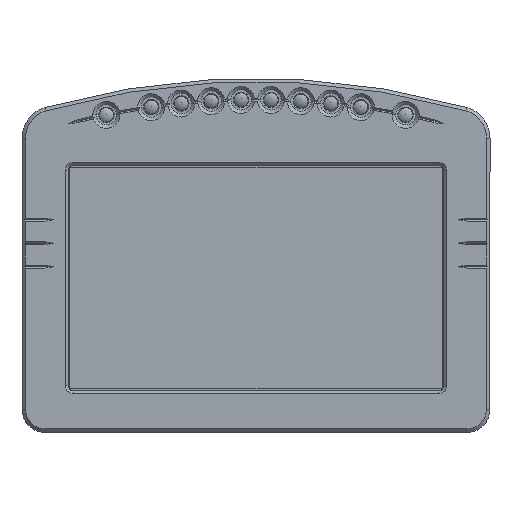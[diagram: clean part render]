
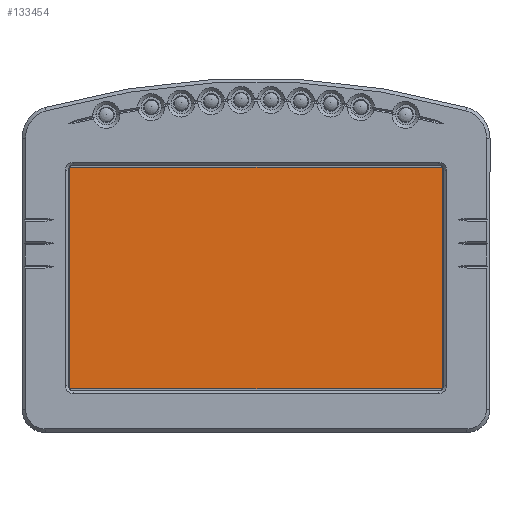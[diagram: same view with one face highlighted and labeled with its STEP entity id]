
A CAD part, top view. The second image highlights one B-rep face of the part: STEP entity #133454.
In plain terms, the highlighted planar face has unit normal (0, 0, 1).
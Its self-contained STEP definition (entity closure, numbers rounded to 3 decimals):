
#3131 = LINE ( 'NONE', #97867, #119452 ) ;
#4005 = CARTESIAN_POINT ( 'NONE',  ( 31.597, -53.169, 28.034 ) ) ;
#6768 = ORIENTED_EDGE ( 'NONE', *, *, #109237, .T. ) ;
#7555 = EDGE_CURVE ( 'NONE', #78285, #24822, #107643, .T. ) ;
#12771 = DIRECTION ( 'NONE',  ( 1., 0., 0. ) ) ;
#19156 = CARTESIAN_POINT ( 'NONE',  ( 31.597, -53.169, 28.034 ) ) ;
#24822 = VERTEX_POINT ( 'NONE', #31691 ) ;
#25016 = PLANE ( 'NONE',  #57813 ) ;
#31630 = ORIENTED_EDGE ( 'NONE', *, *, #7555, .T. ) ;
#31691 = CARTESIAN_POINT ( 'NONE',  ( -75.503, 10.581, 28.034 ) ) ;
#36545 = DIRECTION ( 'NONE',  ( 0., -1., 0. ) ) ;
#47585 = CARTESIAN_POINT ( 'NONE',  ( -75.503, -53.169, 28.034 ) ) ;
#48822 = VECTOR ( 'NONE', #36545, 1000. ) ;
#50032 = ORIENTED_EDGE ( 'NONE', *, *, #122938, .T. ) ;
#50677 = CARTESIAN_POINT ( 'NONE',  ( -75.503, -53.169, 28.034 ) ) ;
#52351 = LINE ( 'NONE', #19156, #131618 ) ;
#55792 = VERTEX_POINT ( 'NONE', #4005 ) ;
#57813 = AXIS2_PLACEMENT_3D ( 'NONE', #99691, #76913, #128716 ) ;
#61104 = ORIENTED_EDGE ( 'NONE', *, *, #67234, .T. ) ;
#67234 = EDGE_CURVE ( 'NONE', #24822, #125724, #79373, .T. ) ;
#76913 = DIRECTION ( 'NONE',  ( 0., 0., -1. ) ) ;
#78285 = VERTEX_POINT ( 'NONE', #78351 ) ;
#78351 = CARTESIAN_POINT ( 'NONE',  ( 31.597, 10.581, 28.034 ) ) ;
#79373 = LINE ( 'NONE', #47585, #48822 ) ;
#94552 = DIRECTION ( 'NONE',  ( 0., 1., 0. ) ) ;
#95159 = VECTOR ( 'NONE', #116655, 1000. ) ;
#97658 = FACE_OUTER_BOUND ( 'NONE', #122963, .T. ) ;
#97867 = CARTESIAN_POINT ( 'NONE',  ( -75.503, -53.169, 28.034 ) ) ;
#99691 = CARTESIAN_POINT ( 'NONE',  ( -21.953, -21.294, 28.034 ) ) ;
#106292 = CARTESIAN_POINT ( 'NONE',  ( -75.503, 10.581, 28.034 ) ) ;
#107643 = LINE ( 'NONE', #106292, #95159 ) ;
#109237 = EDGE_CURVE ( 'NONE', #55792, #78285, #52351, .T. ) ;
#116655 = DIRECTION ( 'NONE',  ( -1., 0., 0. ) ) ;
#119452 = VECTOR ( 'NONE', #12771, 1000. ) ;
#122938 = EDGE_CURVE ( 'NONE', #125724, #55792, #3131, .T. ) ;
#122963 = EDGE_LOOP ( 'NONE', ( #6768, #31630, #61104, #50032 ) ) ;
#125724 = VERTEX_POINT ( 'NONE', #50677 ) ;
#128716 = DIRECTION ( 'NONE',  ( -1., 0., 0. ) ) ;
#131618 = VECTOR ( 'NONE', #94552, 1000. ) ;
#133454 = ADVANCED_FACE ( 'NONE', ( #97658 ), #25016, .F. ) ;
